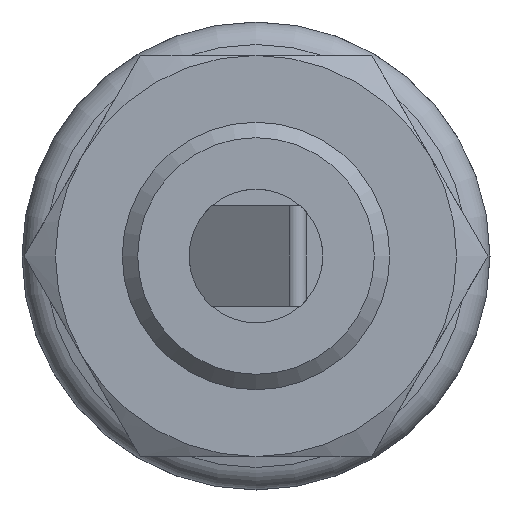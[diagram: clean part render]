
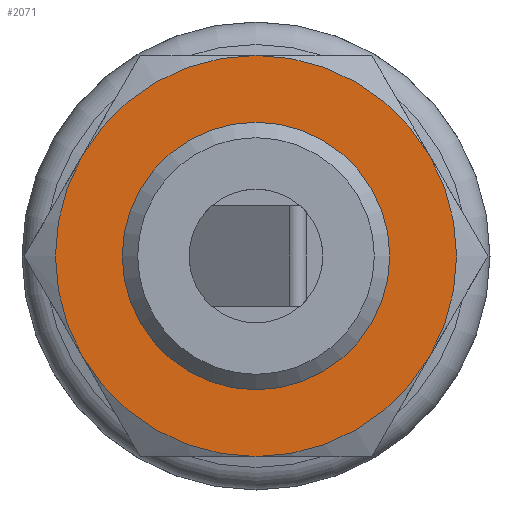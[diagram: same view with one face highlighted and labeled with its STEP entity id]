
A CAD part, front view. The second image highlights one B-rep face of the part: STEP entity #2071.
In plain terms, the highlighted planar face has unit normal (0, -1, 0).
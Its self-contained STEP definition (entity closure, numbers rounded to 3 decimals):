
#218=CIRCLE('',#2253,12.);
#219=CIRCLE('',#2255,12.);
#220=CIRCLE('',#2257,12.);
#221=CIRCLE('',#2259,12.);
#222=CIRCLE('',#2261,12.);
#225=CIRCLE('',#2267,12.);
#226=CIRCLE('',#2269,6.918);
#564=ORIENTED_EDGE('',*,*,#793,.F.);
#565=ORIENTED_EDGE('',*,*,#777,.T.);
#566=ORIENTED_EDGE('',*,*,#780,.T.);
#567=ORIENTED_EDGE('',*,*,#783,.T.);
#568=ORIENTED_EDGE('',*,*,#790,.T.);
#569=ORIENTED_EDGE('',*,*,#773,.T.);
#570=ORIENTED_EDGE('',*,*,#774,.T.);
#773=EDGE_CURVE('',#916,#918,#218,.T.);
#774=EDGE_CURVE('',#918,#919,#219,.T.);
#777=EDGE_CURVE('',#919,#921,#220,.T.);
#780=EDGE_CURVE('',#921,#923,#221,.T.);
#783=EDGE_CURVE('',#923,#925,#222,.T.);
#790=EDGE_CURVE('',#925,#916,#225,.T.);
#793=EDGE_CURVE('',#930,#930,#226,.T.);
#916=VERTEX_POINT('',#3225);
#918=VERTEX_POINT('',#3231);
#919=VERTEX_POINT('',#3235);
#921=VERTEX_POINT('',#3247);
#923=VERTEX_POINT('',#3259);
#925=VERTEX_POINT('',#3271);
#930=VERTEX_POINT('',#3308);
#1179=EDGE_LOOP('',(#564));
#1180=EDGE_LOOP('',(#565,#566,#567,#568,#569,#570));
#1325=FACE_BOUND('',#1179,.T.);
#1326=FACE_BOUND('',#1180,.T.);
#1376=PLANE('',#2268);
#2071=ADVANCED_FACE('',(#1325,#1326),#1376,.F.);
#2253=AXIS2_PLACEMENT_3D('',#3232,#2648,#2649);
#2255=AXIS2_PLACEMENT_3D('',#3234,#2652,#2653);
#2257=AXIS2_PLACEMENT_3D('',#3246,#2656,#2657);
#2259=AXIS2_PLACEMENT_3D('',#3258,#2660,#2661);
#2261=AXIS2_PLACEMENT_3D('',#3270,#2664,#2665);
#2267=AXIS2_PLACEMENT_3D('',#3296,#2676,#2677);
#2268=AXIS2_PLACEMENT_3D('',#3306,#2678,#2679);
#2269=AXIS2_PLACEMENT_3D('',#3307,#2680,#2681);
#2648=DIRECTION('',(0.,-1.,0.));
#2649=DIRECTION('',(0.,0.,-1.));
#2652=DIRECTION('',(0.,-1.,0.));
#2653=DIRECTION('',(0.,0.,-1.));
#2656=DIRECTION('',(0.,-1.,0.));
#2657=DIRECTION('',(0.,0.,-1.));
#2660=DIRECTION('',(0.,-1.,0.));
#2661=DIRECTION('',(0.,0.,-1.));
#2664=DIRECTION('',(0.,-1.,0.));
#2665=DIRECTION('',(0.,0.,-1.));
#2676=DIRECTION('',(0.,-1.,0.));
#2677=DIRECTION('',(0.,0.,-1.));
#2678=DIRECTION('',(0.,1.,0.));
#2679=DIRECTION('',(0.,0.,1.));
#2680=DIRECTION('',(0.,-1.,0.));
#2681=DIRECTION('',(0.,0.,-1.));
#3225=CARTESIAN_POINT('',(-10.392,0.,6.));
#3231=CARTESIAN_POINT('',(-10.392,0.,-6.));
#3232=CARTESIAN_POINT('',(0.,0.,0.));
#3234=CARTESIAN_POINT('',(0.,0.,0.));
#3235=CARTESIAN_POINT('',(0.,0.,-12.));
#3246=CARTESIAN_POINT('',(0.,0.,0.));
#3247=CARTESIAN_POINT('',(10.392,0.,-6.));
#3258=CARTESIAN_POINT('',(0.,0.,0.));
#3259=CARTESIAN_POINT('',(10.392,0.,6.));
#3270=CARTESIAN_POINT('',(0.,0.,0.));
#3271=CARTESIAN_POINT('',(0.,0.,12.));
#3296=CARTESIAN_POINT('',(0.,0.,0.));
#3306=CARTESIAN_POINT('',(12.,0.,0.));
#3307=CARTESIAN_POINT('',(0.,0.,0.));
#3308=CARTESIAN_POINT('',(0.,0.,-6.918));
